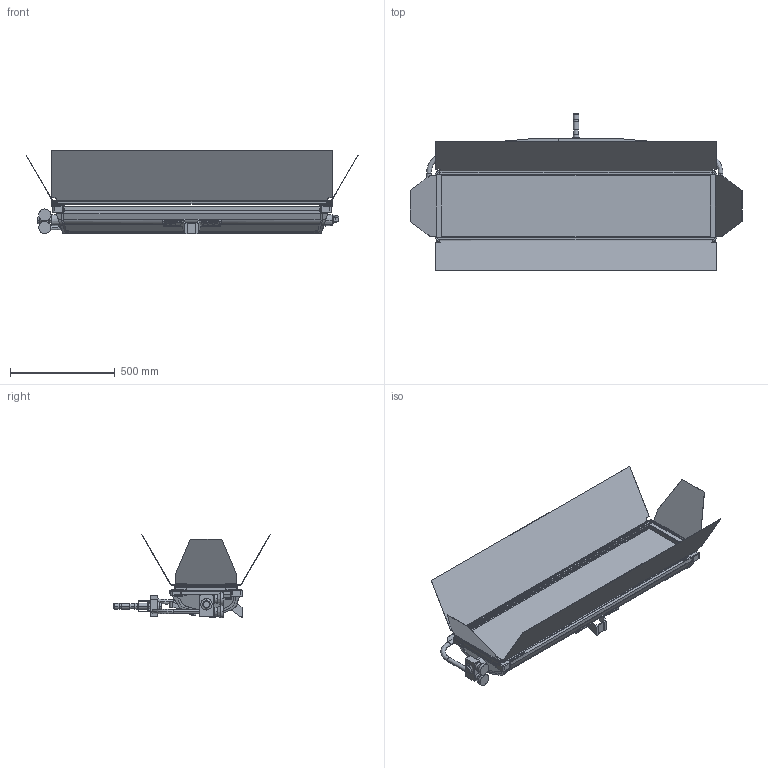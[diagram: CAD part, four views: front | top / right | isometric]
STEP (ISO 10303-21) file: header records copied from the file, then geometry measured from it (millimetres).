
FILE_DESCRIPTION (( 'STEP AP214' ), '1' );
FILE_NAME ('S120-C_PO.STEP', '2016-08-30T13:46:28', ( '' ), ( '' ), 'SwSTEP 2.0', 'SolidWorks 2016', '' );
FILE_SCHEMA (( 'AUTOMOTIVE_DESIGN' ));
Length unit declared in the file: millimetre
Products named in the file (4): S120_Fluegeltor_reduziert; S120-C-reduziert; S120-C_PO; S120_PO-Buegel_reduziert
Assembly tree (3 placements, depth 2):
  S120-C_PO
    S120-C-reduziert
    S120_Fluegeltor_reduziert
    S120_PO-Buegel_reduziert
Bounding box: 1587.17 x 749.65 x 399.33 mm (x, y, z)
Volume: 40584847.3 mm3; surface area: 3709068.7 mm2
Topology: 8 solids, 8 shells, 2620 faces, 7610 edges, 5090 vertices
Faces by surface type: plane 1476, cylinder 881, bspline 195, cone 58, torus 8, sphere 2
Entity records: 126016 total; most frequent: CARTESIAN_POINT 45645, ORIENTED_EDGE 15218, DIRECTION 10582, EDGE_CURVE 7609, VERTEX_POINT 5090, VECTOR 4388, LINE 4388, AXIS2_PLACEMENT_3D 3097
